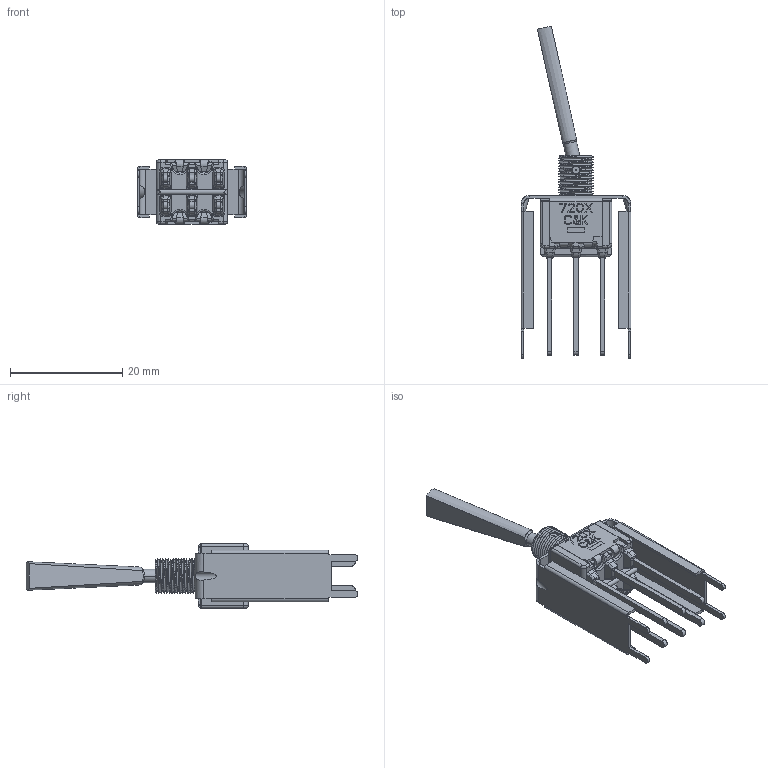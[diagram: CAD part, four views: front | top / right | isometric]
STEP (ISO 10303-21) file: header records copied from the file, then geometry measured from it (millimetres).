
FILE_DESCRIPTION((''),'2;1');
FILE_NAME('72XXP1DV8_SW0001_PRT','2012-08-08T',('jtrepler'),(''),'PRO/ENGINEER BY PARAMETRIC TECHNOLOGY CORPORATION, 2011080','PRO/ENGINEER BY PARAMETRIC TECHNOLOGY CORPORATION, 2011080','');
FILE_SCHEMA(('AUTOMOTIVE_DESIGN_CC2 { 1 2 10303 214 -1 1 5 2 }'));
Products named in the file (1): 72XXP1DV8_SW0001_PRT
Bounding box: 19.56 x 59.07 x 11.48 mm (x, y, z)
Volume: 1515.9 mm3; surface area: 4488.6 mm2
Topology: 2 solids, 2 shells, 1294 faces, 3647 edges, 2298 vertices
Faces by surface type: plane 834, cylinder 275, bspline 152, cone 13, torus 12, sphere 8
Entity records: 57685 total; most frequent: CARTESIAN_POINT 25509, ORIENTED_EDGE 7282, DIRECTION 5856, EDGE_CURVE 3641, VECTOR 2526, LINE 2526, VERTEX_POINT 2298, AXIS2_PLACEMENT_3D 1665
